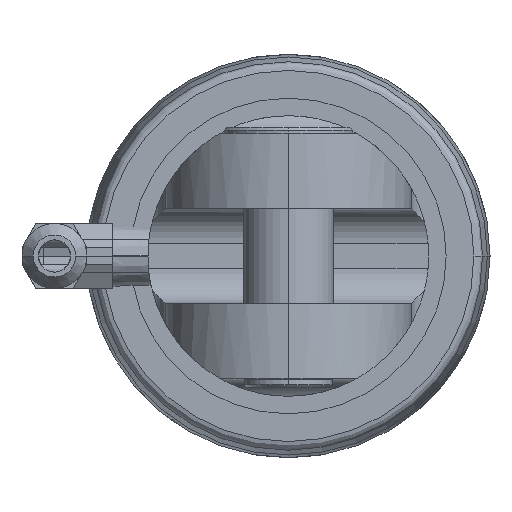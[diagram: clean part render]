
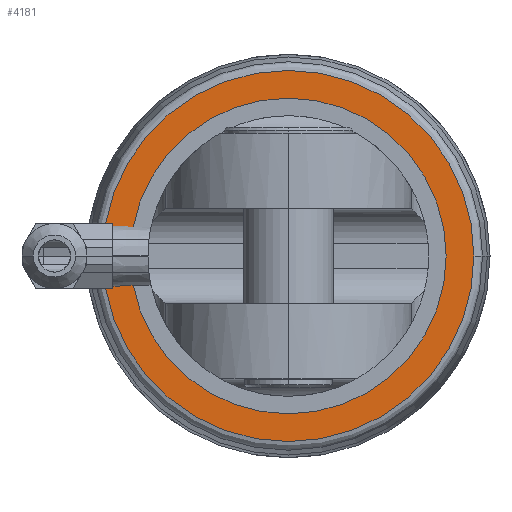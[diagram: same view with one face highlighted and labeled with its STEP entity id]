
A CAD part, left-side view. The second image highlights one B-rep face of the part: STEP entity #4181.
In plain terms, the highlighted planar face has unit normal (-1, 0, 0).
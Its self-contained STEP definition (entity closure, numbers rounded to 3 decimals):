
#74 = DIRECTION ( 'NONE',  ( -1., 0., 0. ) ) ;
#232 = EDGE_LOOP ( 'NONE', ( #3213, #3600 ) ) ;
#450 = AXIS2_PLACEMENT_3D ( 'NONE', #2080, #4753, #1647 ) ;
#555 = CIRCLE ( 'NONE', #3412, 27. ) ;
#725 = ORIENTED_EDGE ( 'NONE', *, *, #4130, .T. ) ;
#819 = EDGE_CURVE ( 'NONE', #3865, #5259, #5311, .T. ) ;
#891 = AXIS2_PLACEMENT_3D ( 'NONE', #4501, #4930, #2272 ) ;
#940 = CARTESIAN_POINT ( 'NONE',  ( 0., 0., 0. ) ) ;
#1398 = DIRECTION ( 'NONE',  ( 0., 0., -1. ) ) ;
#1399 = AXIS2_PLACEMENT_3D ( 'NONE', #2759, #74, #3206 ) ;
#1647 = DIRECTION ( 'NONE',  ( 0., 1., 0. ) ) ;
#1767 = EDGE_CURVE ( 'NONE', #4248, #1908, #4422, .T. ) ;
#1908 = VERTEX_POINT ( 'NONE', #2979 ) ;
#2080 = CARTESIAN_POINT ( 'NONE',  ( 0., 0., 0. ) ) ;
#2272 = DIRECTION ( 'NONE',  ( 0., 0., -1. ) ) ;
#2305 = DIRECTION ( 'NONE',  ( 1., 0., 0. ) ) ;
#2759 = CARTESIAN_POINT ( 'NONE',  ( 0., 0., 0. ) ) ;
#2930 = CARTESIAN_POINT ( 'NONE',  ( 0., 0., 27. ) ) ;
#2979 = CARTESIAN_POINT ( 'NONE',  ( 0., 0., -27. ) ) ;
#3206 = DIRECTION ( 'NONE',  ( 0., 1., 0. ) ) ;
#3213 = ORIENTED_EDGE ( 'NONE', *, *, #3628, .T. ) ;
#3321 = PLANE ( 'NONE',  #3787 ) ;
#3344 = CARTESIAN_POINT ( 'NONE',  ( 0., 31.741, 0. ) ) ;
#3412 = AXIS2_PLACEMENT_3D ( 'NONE', #940, #4079, #1398 ) ;
#3476 = CIRCLE ( 'NONE', #1399, 31.741 ) ;
#3600 = ORIENTED_EDGE ( 'NONE', *, *, #1767, .T. ) ;
#3628 = EDGE_CURVE ( 'NONE', #1908, #4248, #555, .T. ) ;
#3767 = DIRECTION ( 'NONE',  ( 0., 1., 0. ) ) ;
#3787 = AXIS2_PLACEMENT_3D ( 'NONE', #5520, #2305, #3767 ) ;
#3810 = CARTESIAN_POINT ( 'NONE',  ( 0., -31.741, 0. ) ) ;
#3865 = VERTEX_POINT ( 'NONE', #3344 ) ;
#4079 = DIRECTION ( 'NONE',  ( 1., 0., 0. ) ) ;
#4130 = EDGE_CURVE ( 'NONE', #5259, #3865, #3476, .T. ) ;
#4181 = ADVANCED_FACE ( 'NONE', ( #5550, #4401 ), #3321, .F. ) ;
#4248 = VERTEX_POINT ( 'NONE', #2930 ) ;
#4401 = FACE_OUTER_BOUND ( 'NONE', #5595, .T. ) ;
#4422 = CIRCLE ( 'NONE', #891, 27. ) ;
#4430 = ORIENTED_EDGE ( 'NONE', *, *, #819, .T. ) ;
#4501 = CARTESIAN_POINT ( 'NONE',  ( 0., 0., 0. ) ) ;
#4753 = DIRECTION ( 'NONE',  ( -1., 0., 0. ) ) ;
#4930 = DIRECTION ( 'NONE',  ( 1., 0., 0. ) ) ;
#5259 = VERTEX_POINT ( 'NONE', #3810 ) ;
#5311 = CIRCLE ( 'NONE', #450, 31.741 ) ;
#5520 = CARTESIAN_POINT ( 'NONE',  ( 0., 0., 28. ) ) ;
#5550 = FACE_BOUND ( 'NONE', #232, .T. ) ;
#5595 = EDGE_LOOP ( 'NONE', ( #4430, #725 ) ) ;
